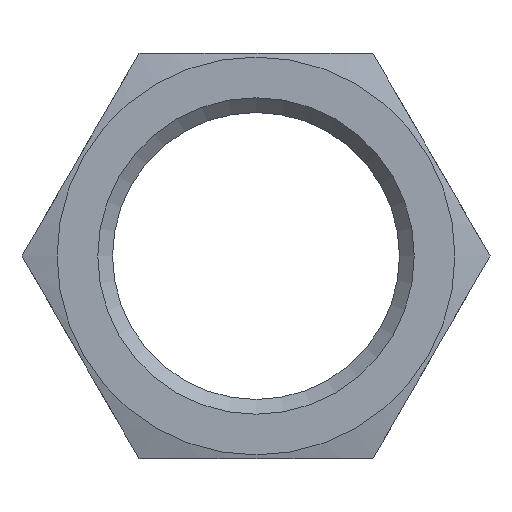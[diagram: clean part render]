
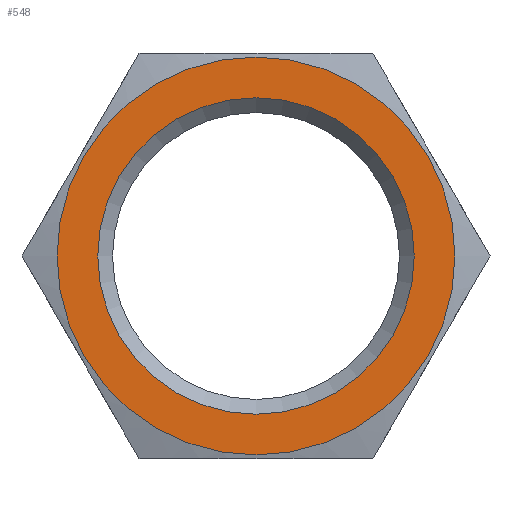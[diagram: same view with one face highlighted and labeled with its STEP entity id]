
A CAD part, front view. The second image highlights one B-rep face of the part: STEP entity #548.
In plain terms, the highlighted planar face has unit normal (0, -1, 0).
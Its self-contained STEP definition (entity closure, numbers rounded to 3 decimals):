
#94=FACE_BOUND('',#149,.T.);
#113=FACE_OUTER_BOUND('',#148,.T.);
#148=EDGE_LOOP('',(#441,#442));
#149=EDGE_LOOP('',(#443));
#199=CIRCLE('',#633,21.476);
#204=CIRCLE('',#640,27.);
#205=CIRCLE('',#641,27.);
#243=VERTEX_POINT('',#932);
#248=VERTEX_POINT('',#946);
#249=VERTEX_POINT('',#947);
#312=EDGE_CURVE('',#243,#243,#199,.T.);
#319=EDGE_CURVE('',#248,#249,#204,.T.);
#320=EDGE_CURVE('',#249,#248,#205,.T.);
#441=ORIENTED_EDGE('',*,*,#319,.F.);
#442=ORIENTED_EDGE('',*,*,#320,.F.);
#443=ORIENTED_EDGE('',*,*,#312,.F.);
#523=PLANE('',#639);
#548=ADVANCED_FACE('',(#113,#94),#523,.T.);
#633=AXIS2_PLACEMENT_3D('',#933,#772,#773);
#639=AXIS2_PLACEMENT_3D('',#945,#786,#787);
#640=AXIS2_PLACEMENT_3D('',#948,#788,#789);
#641=AXIS2_PLACEMENT_3D('',#949,#790,#791);
#772=DIRECTION('center_axis',(0.,-1.,0.));
#773=DIRECTION('ref_axis',(0.,0.,-1.));
#786=DIRECTION('center_axis',(0.,-1.,0.));
#787=DIRECTION('ref_axis',(0.,0.,-1.));
#788=DIRECTION('center_axis',(0.,1.,0.));
#789=DIRECTION('ref_axis',(1.,0.,0.));
#790=DIRECTION('center_axis',(0.,1.,0.));
#791=DIRECTION('ref_axis',(1.,0.,0.));
#932=CARTESIAN_POINT('',(0.,-60.,21.476));
#933=CARTESIAN_POINT('Origin',(0.,-60.,0.));
#945=CARTESIAN_POINT('Origin',(0.,-60.,27.));
#946=CARTESIAN_POINT('',(0.,-60.,27.));
#947=CARTESIAN_POINT('',(0.,-60.,-27.));
#948=CARTESIAN_POINT('Origin',(0.,-60.,0.));
#949=CARTESIAN_POINT('Origin',(0.,-60.,0.));
